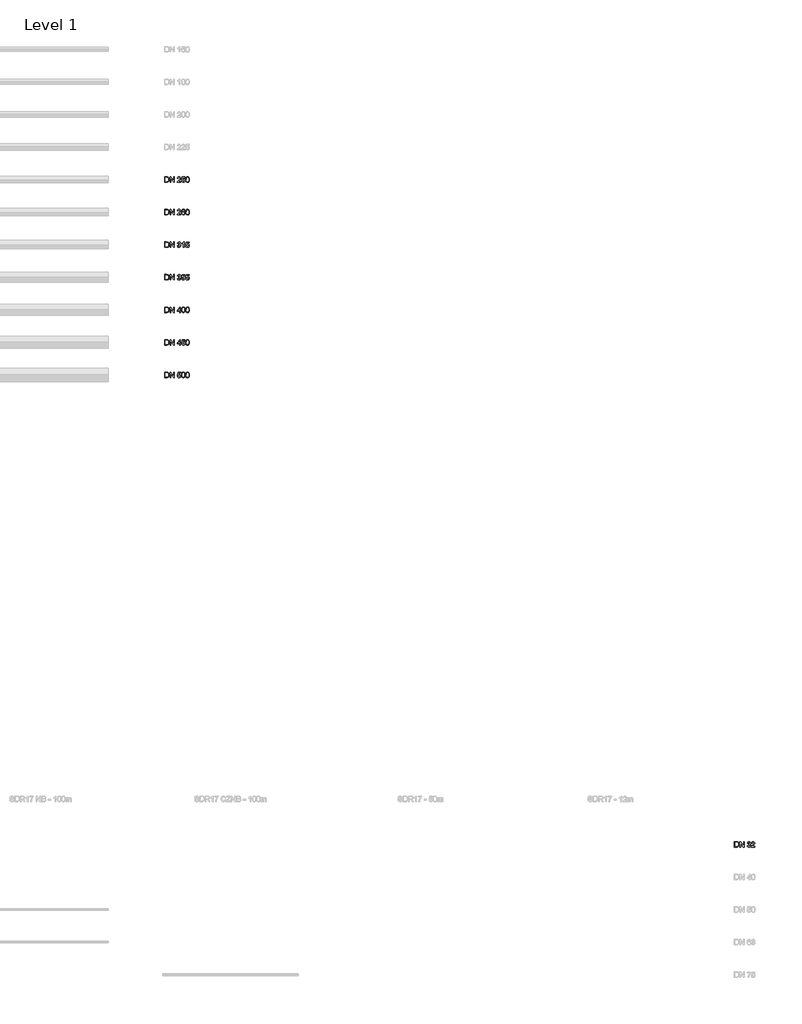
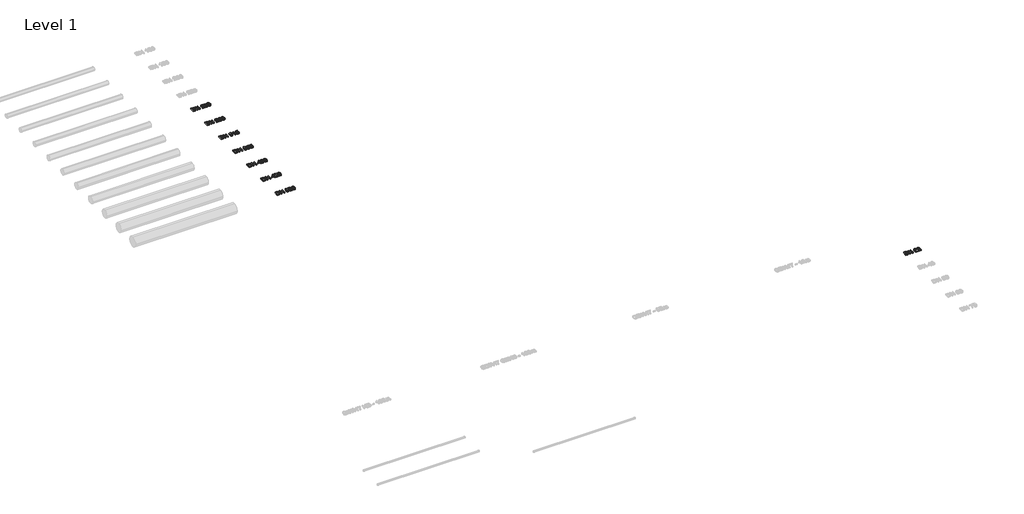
# One storey, part 22 of 26: 8 proxies.
"""IFC4 building model written with IfcOpenShell, lengths in millimetres."""

from ifc_helpers import new_model, si_unit, origin, origin_with_axes, place, context, project, spatial, polyline, outline, extrude, element, save

model = new_model("IFC4")

# Units and contexts
model_context = context("Model", 3, world=origin())
ifc_project = project(units=[si_unit("LENGTHUNIT", "METRE", prefix="MILLI")], contexts=[model_context])

# Site, building, storey
site = spatial("IfcSite", under=ifc_project)
building = spatial("IfcBuilding", under=site)
storey = spatial("IfcBuildingStorey", under=building, Name="Level 1", Elevation=0.0)

# Proxies
placement = place(None, origin())
element("IfcBuildingElementProxy", 1, Name="200mm Arial", ObjectType="200mm Arial", at=placement, inside=storey, context=model_context, shape_type="SweptSolid", body=[
    extrude(outline(polyline([(4539.3076926, -13913.949573), (4539.3076926, -13713.0369527), (4608.6166605, -13713.0369527), (4644.4728923, -13715.9309577), (4660.4880218, -13721.5105013), (4674.0015538, -13730.302881), (4687.8952305, -13745.606772), (4697.7912562, -13764.6385338), (4703.7141563, -13787.0302846), (4705.6884563, -13812.4141423), (4700.3419047, -13852.9547382), (4686.6076435, -13882.2136195), (4668.2625947, -13900.436041), (4644.2521631, -13910.5160077), (4611.9521239, -13913.949573), (4539.3076926, -13913.949573)]), holes=[polyline([(4564.4217702, -13888.8354954), (4608.8619152, -13888.8354954), (4641.1864798, -13885.2057264), (4659.8258342, -13874.9540815), (4668.5507689, -13864.0831685), (4675.1051998, -13850.0116822), (4679.207084, -13832.6783089), (4680.5743788, -13812.0217348), (4677.8949716, -13784.6513144), (4669.85675, -13764.4423301), (4657.9802929, -13750.5609162), (4643.7861793, -13742.1732067), (4608.1752021, -13738.1510302), (4564.4217702, -13738.1510302), (4564.4217702, -13888.8354954)])]), origin_with_axes(), (0.0, 0.0, 1.0), 50.0),
    extrude(outline(polyline([(4740.2203129, -13913.949573), (4740.2203129, -13713.0369527), (4767.100224, -13713.0369527), (4872.06922, -13872.2072292), (4872.06922, -13713.0369527), (4897.1832975, -13713.0369527), (4897.1832975, -13913.949573), (4870.3033864, -13913.949573), (4765.3343905, -13754.7302454), (4765.3343905, -13913.949573), (4740.2203129, -13913.949573)])), origin_with_axes(), (0.0, 0.0, 1.0), 50.0),
    extrude(outline(polyline([(5138.9062938, -13888.8354954), (5138.9062938, -13913.949573), (5007.0573868, -13913.949573), (5009.7551881, -13896.6345937), (5025.0100281, -13869.9754118), (5056.451676, -13840.8636832), (5099.8127005, -13799.0232377), (5107.9428926, -13784.6022634), (5110.6529566, -13770.5736967), (5108.0961767, -13757.9982638), (5100.4258371, -13747.5442838), (5088.6352192, -13740.4993436), (5073.7176043, -13738.1510302), (5058.0519627, -13740.4441613), (5045.8812, -13747.3235546), (5038.0269194, -13758.2496499), (5035.310724, -13772.6828868), (5010.1966465, -13769.5436271), (5016.2850935, -13745.2511527), (5029.4491375, -13727.5069778), (5049.0020656, -13716.6544589), (5074.2571645, -13713.0369527), (5099.6962045, -13717.0591291), (5119.2123444, -13729.1256586), (5131.6283617, -13747.1518763), (5135.7670341, -13769.0531178), (5131.3033993, -13792.8673456), (5116.4654921, -13817.4909138), (5080.486633, -13851.9001431), (5051.5956336, -13876.0577275), (5040.2648682, -13888.8354954), (5138.9062938, -13888.8354954)])), origin_with_axes(), (0.0, 0.0, 1.0), 50.0),
    extrude(outline(polyline([(5164.0203714, -13860.5821582), (5189.1344489, -13857.4428985), (5193.7452366, -13872.5199289), (5201.7895895, -13883.3172655), (5213.2307196, -13889.8103827), (5228.0318385, -13891.9747551), (5246.0335308, -13888.9642541), (5259.5225373, -13879.9327511), (5267.947035, -13865.9225785), (5270.7552009, -13847.9760685), (5268.1248446, -13831.0780222), (5260.2337758, -13818.1531014), (5247.0206809, -13809.9493329), (5228.424246, -13807.2147434), (5206.3758518, -13811.5802764), (5192.2737086, -13822.9110419), (5167.1596311, -13819.7717822), (5189.1344489, -13716.1762123), (5286.4514994, -13716.1762123), (5286.4514994, -13741.2902899), (5209.441535, -13741.2902899), (5198.6993808, -13796.619742), (5216.6397594, -13785.7304349), (5235.4385294, -13782.1006659), (5258.9032693, -13786.601089), (5278.3826209, -13800.1023582), (5291.4976141, -13820.6792244), (5295.8692784, -13846.4064386), (5291.9329411, -13871.5205162), (5280.123929, -13893.0048247), (5269.6883431, -13903.5415782), (5257.5114491, -13911.0678307), (5243.5932469, -13915.5835821), (5227.9337367, -13917.0888326), (5203.2672489, -13913.2199403), (5183.616219, -13901.6132634), (5170.1456066, -13883.6177025), (5164.0203714, -13860.5821582)])), origin_with_axes(), (0.0, 0.0, 1.0), 50.0),
    extrude(outline(polyline([(5317.8440963, -13815.1119436), (5319.6896376, -13782.9529258), (5325.2262617, -13757.3054194), (5334.3987861, -13737.7770168), (5347.1520286, -13723.9753106), (5363.5779597, -13715.7715422), (5383.7685498, -13713.0369527), (5399.2441191, -13714.6556334), (5413.1010076, -13719.5116758), (5424.6892904, -13727.4150073), (5433.3590428, -13738.1755557), (5445.1312666, -13767.9004209), (5449.6930034, -13815.1119436), (5447.8658561, -13847.0870203), (5442.3844144, -13872.6732131), (5433.2670723, -13892.2200098), (5420.5322239, -13906.0768983), (5404.0695046, -13914.335849), (5383.7685498, -13917.0888326), (5357.6734536, -13912.3063667), (5337.8568768, -13897.9589689), (5329.1012853, -13882.8298218), (5322.8472914, -13863.9789353), (5317.8440963, -13815.1119436)]), holes=[polyline([(5342.9581738, -13815.0628927), (5345.9012298, -13854.5672876), (5354.7303977, -13877.4311536), (5367.8760476, -13888.3388547), (5383.7685498, -13891.9747551), (5399.661052, -13888.326592), (5412.806702, -13877.3821026), (5421.6358699, -13854.5059739), (5424.5789258, -13815.0628927), (5421.7339717, -13776.4475459), (5413.1991094, -13753.4058703), (5400.0779849, -13741.9647402), (5383.4742442, -13738.1510302), (5367.7534203, -13741.5110191), (5355.1228051, -13751.5909857), (5345.9993317, -13776.0674012), (5342.9581738, -13815.0628927)])]), origin_with_axes(), (0.0, 0.0, 1.0), 50.0),
])
element("IfcBuildingElementProxy", 2, Name="200mm Arial", ObjectType="200mm Arial", at=placement, inside=storey, context=model_context, shape_type="SweptSolid", body=[
    extrude(outline(polyline([(4539.3076926, -16313.949573), (4539.3076926, -16113.0369527), (4608.6166605, -16113.0369527), (4644.4728923, -16115.9309577), (4660.4880218, -16121.5105013), (4674.0015538, -16130.302881), (4687.8952305, -16145.606772), (4697.7912562, -16164.6385338), (4703.7141563, -16187.0302846), (4705.6884563, -16212.4141423), (4700.3419047, -16252.9547382), (4686.6076435, -16282.2136195), (4668.2625947, -16300.436041), (4644.2521631, -16310.5160077), (4611.9521239, -16313.949573), (4539.3076926, -16313.949573)]), holes=[polyline([(4564.4217702, -16288.8354954), (4608.8619152, -16288.8354954), (4641.1864798, -16285.2057264), (4659.8258342, -16274.9540815), (4668.5507689, -16264.0831685), (4675.1051998, -16250.0116822), (4679.207084, -16232.6783089), (4680.5743788, -16212.0217348), (4677.8949716, -16184.6513144), (4669.85675, -16164.4423301), (4657.9802929, -16150.5609162), (4643.7861793, -16142.1732067), (4608.1752021, -16138.1510302), (4564.4217702, -16138.1510302), (4564.4217702, -16288.8354954)])]), origin_with_axes(), (0.0, 0.0, 1.0), 50.0),
    extrude(outline(polyline([(4740.2203129, -16313.949573), (4740.2203129, -16113.0369527), (4767.100224, -16113.0369527), (4872.06922, -16272.2072292), (4872.06922, -16113.0369527), (4897.1832975, -16113.0369527), (4897.1832975, -16313.949573), (4870.3033864, -16313.949573), (4765.3343905, -16154.7302454), (4765.3343905, -16313.949573), (4740.2203129, -16313.949573)])), origin_with_axes(), (0.0, 0.0, 1.0), 50.0),
    extrude(outline(polyline([(5010.1966465, -16260.5821582), (5035.310724, -16257.4428985), (5040.9331872, -16273.2250361), (5049.1676125, -16283.8813512), (5060.4186702, -16289.9514041), (5075.0910304, -16291.9747551), (5092.3079078, -16289.1911147), (5105.6007105, -16280.8401934), (5114.0987846, -16268.3812565), (5116.931476, -16253.2735692), (5114.1233101, -16238.9323028), (5105.6988124, -16227.3011004), (5092.9455699, -16219.5939726), (5077.1511696, -16217.02493), (5059.5418847, -16219.7717822), (5062.3377879, -16194.6577047), (5066.3599644, -16194.9520102), (5081.406338, -16193.1493885), (5094.8585563, -16187.7415231), (5104.3499118, -16178.5935242), (5107.5136969, -16165.5705016), (5105.2205658, -16154.7241141), (5098.3411725, -16145.925603), (5087.8442729, -16140.0946734), (5074.6986229, -16138.1510302), (5061.5284475, -16140.1130675), (5050.7617678, -16145.9991794), (5042.9013558, -16155.809366), (5038.4499837, -16169.5436271), (5013.3359061, -16166.4043674), (5020.7303343, -16143.8532011), (5033.8882469, -16127.0164685), (5051.8899392, -16116.5318316), (5073.8157062, -16113.0369527), (5089.6039751, -16114.7598667), (5104.1046571, -16119.9286087), (5116.3306021, -16128.0833263), (5125.29466, -16138.7641669), (5130.7944958, -16151.0698196), (5132.6277745, -16164.0989736), (5130.8864663, -16176.2390794), (5125.662542, -16187.2510138), (5117.0295779, -16196.6320047), (5105.0611503, -16203.87928), (5120.7819742, -16210.2313758), (5132.4315707, -16221.0471064), (5139.6420578, -16235.7378608), (5142.0455535, -16253.7150276), (5137.2385621, -16278.191443), (5122.8175879, -16298.645682), (5101.0512365, -16312.478045), (5074.2081136, -16317.0888326), (5049.9279019, -16313.1524953), (5030.1603761, -16301.3434833), (5016.4138522, -16283.2804773), (5010.1966465, -16260.5821582)])), origin_with_axes(), (0.0, 0.0, 1.0), 50.0),
    extrude(outline(polyline([(5258.1981621, -16313.949573), (5233.0840846, -16313.949573), (5233.0840846, -16157.3789958), (5209.2943822, -16174.3260931), (5182.8559295, -16187.0057592), (5182.8559295, -16163.2651077), (5219.6686545, -16139.769711), (5233.1392669, -16126.1948653), (5242.0113543, -16113.0369527), (5258.1981621, -16113.0369527), (5258.1981621, -16313.949573)])), origin_with_axes(), (0.0, 0.0, 1.0), 50.0),
    extrude(outline(polyline([(5317.8440963, -16260.5821582), (5342.9581738, -16257.4428985), (5347.5689615, -16272.5199289), (5355.6133145, -16283.3172655), (5367.0544445, -16289.8103827), (5381.8555634, -16291.9747551), (5399.8572557, -16288.9642541), (5413.3462622, -16279.9327511), (5421.7707599, -16265.9225785), (5424.5789258, -16247.9760685), (5421.9485696, -16231.0780222), (5414.0575008, -16218.1531014), (5400.8444058, -16209.9493329), (5382.2479709, -16207.2147434), (5360.1995767, -16211.5802764), (5346.0974335, -16222.9110419), (5320.983356, -16219.7717822), (5342.9581738, -16116.1762123), (5440.2752243, -16116.1762123), (5440.2752243, -16141.2902899), (5363.26526, -16141.2902899), (5352.5231057, -16196.619742), (5370.4634843, -16185.7304349), (5389.2622543, -16182.1006659), (5412.7269942, -16186.601089), (5432.2063459, -16200.1023582), (5445.321339, -16220.6792244), (5449.6930034, -16246.4064386), (5445.756666, -16271.5205162), (5433.947654, -16293.0048247), (5423.512068, -16303.5415782), (5411.335174, -16311.0678307), (5397.4169718, -16315.5835821), (5381.7574616, -16317.0888326), (5357.0909738, -16313.2199403), (5337.4399439, -16301.6132634), (5323.9693315, -16283.6177025), (5317.8440963, -16260.5821582)])), origin_with_axes(), (0.0, 0.0, 1.0), 50.0),
])
element("IfcBuildingElementProxy", 3, Name="200mm Arial", ObjectType="200mm Arial", at=placement, inside=storey, context=model_context, shape_type="SweptSolid", body=[
    extrude(outline(polyline([(4539.3076926, -18713.949573), (4539.3076926, -18513.0369527), (4608.6166605, -18513.0369527), (4644.4728923, -18515.9309577), (4660.4880218, -18521.5105013), (4674.0015538, -18530.302881), (4687.8952305, -18545.606772), (4697.7912562, -18564.6385338), (4703.7141563, -18587.0302846), (4705.6884563, -18612.4141423), (4700.3419047, -18652.9547382), (4686.6076435, -18682.2136195), (4668.2625947, -18700.436041), (4644.2521631, -18710.5160077), (4611.9521239, -18713.949573), (4539.3076926, -18713.949573)]), holes=[polyline([(4564.4217702, -18688.8354954), (4608.8619152, -18688.8354954), (4641.1864798, -18685.2057264), (4659.8258342, -18674.9540815), (4668.5507689, -18664.0831685), (4675.1051998, -18650.0116822), (4679.207084, -18632.6783089), (4680.5743788, -18612.0217348), (4677.8949716, -18584.6513144), (4669.85675, -18564.4423301), (4657.9802929, -18550.5609162), (4643.7861793, -18542.1732067), (4608.1752021, -18538.1510302), (4564.4217702, -18538.1510302), (4564.4217702, -18688.8354954)])]), origin_with_axes(), (0.0, 0.0, 1.0), 50.0),
    extrude(outline(polyline([(4740.2203129, -18713.949573), (4740.2203129, -18513.0369527), (4767.100224, -18513.0369527), (4872.06922, -18672.2072292), (4872.06922, -18513.0369527), (4897.1832975, -18513.0369527), (4897.1832975, -18713.949573), (4870.3033864, -18713.949573), (4765.3343905, -18554.7302454), (4765.3343905, -18713.949573), (4740.2203129, -18713.949573)])), origin_with_axes(), (0.0, 0.0, 1.0), 50.0),
    extrude(outline(polyline([(5091.8173985, -18713.949573), (5091.8173985, -18666.8606776), (5000.7788674, -18666.8606776), (5000.7788674, -18641.7466), (5098.0959178, -18516.1762123), (5116.931476, -18516.1762123), (5116.931476, -18641.7466), (5142.0455535, -18641.7466), (5142.0455535, -18666.8606776), (5116.931476, -18666.8606776), (5116.931476, -18713.949573), (5091.8173985, -18713.949573)]), holes=[polyline([(5091.8173985, -18641.7466), (5091.8173985, -18564.1480245), (5031.680955, -18641.7466), (5091.8173985, -18641.7466)])]), origin_with_axes(), (0.0, 0.0, 1.0), 50.0),
    extrude(outline(polyline([(5164.0203714, -18615.1119436), (5165.8659127, -18582.9529258), (5171.4025367, -18557.3054194), (5180.5750612, -18537.7770168), (5193.3283037, -18523.9753106), (5209.7542347, -18515.7715422), (5229.9448249, -18513.0369527), (5245.4203942, -18514.6556334), (5259.2772827, -18519.5116758), (5270.8655655, -18527.4150073), (5279.5353179, -18538.1755557), (5291.3075417, -18567.9004209), (5295.8692784, -18615.1119436), (5294.0421312, -18647.0870203), (5288.5606895, -18672.6732131), (5279.4433474, -18692.2200098), (5266.708499, -18706.0768983), (5250.2457797, -18714.335849), (5229.9448249, -18717.0888326), (5203.8497287, -18712.3063667), (5184.0331519, -18697.9589689), (5175.2775604, -18682.8298218), (5169.0235665, -18663.9789353), (5164.0203714, -18615.1119436)]), holes=[polyline([(5189.1344489, -18615.0628927), (5192.0775049, -18654.5672876), (5200.9066728, -18677.4311536), (5214.0523227, -18688.3388547), (5229.9448249, -18691.9747551), (5245.8373271, -18688.326592), (5258.9829771, -18677.3821026), (5267.8121449, -18654.5059739), (5270.7552009, -18615.0628927), (5267.9102468, -18576.4475459), (5259.3753845, -18553.4058703), (5246.25426, -18541.9647402), (5229.6505193, -18538.1510302), (5213.9296954, -18541.5110191), (5201.2990802, -18551.5909857), (5192.1756067, -18576.0674012), (5189.1344489, -18615.0628927)])]), origin_with_axes(), (0.0, 0.0, 1.0), 50.0),
    extrude(outline(polyline([(5317.8440963, -18615.1119436), (5319.6896376, -18582.9529258), (5325.2262617, -18557.3054194), (5334.3987861, -18537.7770168), (5347.1520286, -18523.9753106), (5363.5779597, -18515.7715422), (5383.7685498, -18513.0369527), (5399.2441191, -18514.6556334), (5413.1010076, -18519.5116758), (5424.6892904, -18527.4150073), (5433.3590428, -18538.1755557), (5445.1312666, -18567.9004209), (5449.6930034, -18615.1119436), (5447.8658561, -18647.0870203), (5442.3844144, -18672.6732131), (5433.2670723, -18692.2200098), (5420.5322239, -18706.0768983), (5404.0695046, -18714.335849), (5383.7685498, -18717.0888326), (5357.6734536, -18712.3063667), (5337.8568768, -18697.9589689), (5329.1012853, -18682.8298218), (5322.8472914, -18663.9789353), (5317.8440963, -18615.1119436)]), holes=[polyline([(5342.9581738, -18615.0628927), (5345.9012298, -18654.5672876), (5354.7303977, -18677.4311536), (5367.8760476, -18688.3388547), (5383.7685498, -18691.9747551), (5399.661052, -18688.326592), (5412.806702, -18677.3821026), (5421.6358699, -18654.5059739), (5424.5789258, -18615.0628927), (5421.7339717, -18576.4475459), (5413.1991094, -18553.4058703), (5400.0779849, -18541.9647402), (5383.4742442, -18538.1510302), (5367.7534203, -18541.5110191), (5355.1228051, -18551.5909857), (5345.9993317, -18576.0674012), (5342.9581738, -18615.0628927)])]), origin_with_axes(), (0.0, 0.0, 1.0), 50.0),
])
element("IfcBuildingElementProxy", 4, Name="200mm Arial", ObjectType="200mm Arial", at=placement, inside=storey, context=model_context, shape_type="SweptSolid", body=[
    extrude(outline(polyline([(4539.3076926, -15113.949573), (4539.3076926, -14913.0369527), (4608.6166605, -14913.0369527), (4644.4728923, -14915.9309577), (4660.4880218, -14921.5105013), (4674.0015538, -14930.302881), (4687.8952305, -14945.606772), (4697.7912562, -14964.6385338), (4703.7141563, -14987.0302846), (4705.6884563, -15012.4141423), (4700.3419047, -15052.9547382), (4686.6076435, -15082.2136195), (4668.2625947, -15100.436041), (4644.2521631, -15110.5160077), (4611.9521239, -15113.949573), (4539.3076926, -15113.949573)]), holes=[polyline([(4564.4217702, -15088.8354954), (4608.8619152, -15088.8354954), (4641.1864798, -15085.2057264), (4659.8258342, -15074.9540815), (4668.5507689, -15064.0831685), (4675.1051998, -15050.0116822), (4679.207084, -15032.6783089), (4680.5743788, -15012.0217348), (4677.8949716, -14984.6513144), (4669.85675, -14964.4423301), (4657.9802929, -14950.5609162), (4643.7861793, -14942.1732067), (4608.1752021, -14938.1510302), (4564.4217702, -14938.1510302), (4564.4217702, -15088.8354954)])]), origin_with_axes(), (0.0, 0.0, 1.0), 50.0),
    extrude(outline(polyline([(4740.2203129, -15113.949573), (4740.2203129, -14913.0369527), (4767.100224, -14913.0369527), (4872.06922, -15072.2072292), (4872.06922, -14913.0369527), (4897.1832975, -14913.0369527), (4897.1832975, -15113.949573), (4870.3033864, -15113.949573), (4765.3343905, -14954.7302454), (4765.3343905, -15113.949573), (4740.2203129, -15113.949573)])), origin_with_axes(), (0.0, 0.0, 1.0), 50.0),
    extrude(outline(polyline([(5138.9062938, -15088.8354954), (5138.9062938, -15113.949573), (5007.0573868, -15113.949573), (5009.7551881, -15096.6345937), (5025.0100281, -15069.9754118), (5056.451676, -15040.8636832), (5099.8127005, -14999.0232377), (5107.9428926, -14984.6022634), (5110.6529566, -14970.5736967), (5108.0961767, -14957.9982638), (5100.4258371, -14947.5442838), (5088.6352192, -14940.4993436), (5073.7176043, -14938.1510302), (5058.0519627, -14940.4441613), (5045.8812, -14947.3235546), (5038.0269194, -14958.2496499), (5035.310724, -14972.6828868), (5010.1966465, -14969.5436271), (5016.2850935, -14945.2511527), (5029.4491375, -14927.5069778), (5049.0020656, -14916.6544589), (5074.2571645, -14913.0369527), (5099.6962045, -14917.0591291), (5119.2123444, -14929.1256586), (5131.6283617, -14947.1518763), (5135.7670341, -14969.0531178), (5131.3033993, -14992.8673456), (5116.4654921, -15017.4909138), (5080.486633, -15051.9001431), (5051.5956336, -15076.0577275), (5040.2648682, -15088.8354954), (5138.9062938, -15088.8354954)])), origin_with_axes(), (0.0, 0.0, 1.0), 50.0),
    extrude(outline(polyline([(5200.6123672, -15003.2906688), (5187.1662802, -14996.6687929), (5177.7301071, -14987.6924722), (5172.1566948, -14976.5456478), (5170.2988908, -14963.4122605), (5174.3455927, -14943.7796247), (5186.4856985, -14927.5560287), (5205.3580449, -14916.6667217), (5229.6014684, -14913.0369527), (5253.9920447, -14916.7525608), (5273.1096457, -14927.8993853), (5285.4704807, -14944.3804986), (5289.5907591, -14964.0989736), (5287.7574804, -14976.8092965), (5282.2576446, -14987.7660486), (5273.0299379, -14996.687187), (5260.0130466, -15003.2906688), (5275.4702218, -15011.255314), (5286.7212795, -15022.9846183), (5293.5822787, -15037.9144959), (5295.8692784, -15055.4808612), (5291.3320672, -15079.4912927), (5277.7204333, -15099.332395), (5256.7021087, -15112.6497232), (5229.9448249, -15117.0888326), (5203.1875411, -15112.6313291), (5182.1692165, -15099.2588186), (5168.5575826, -15079.227644), (5164.0203714, -15054.7941481), (5166.3993416, -15036.5472012), (5173.5362523, -15021.5376158), (5185.0632215, -15010.2804267), (5200.6123672, -15003.2906688)]), holes=[polyline([(5189.1344489, -15053.9112313), (5193.3283037, -15072.8203659), (5199.1347078, -15080.9321639), (5208.1662108, -15086.97156), (5230.1410286, -15091.9747551), (5247.2352787, -15089.3443988), (5260.0620976, -15081.45333), (5268.0819251, -15069.5032966), (5270.7552009, -15054.6960463), (5267.9960859, -15039.6374099), (5259.7187411, -15027.4237277), (5246.5976166, -15019.3303238), (5229.3071628, -15016.6325225), (5212.452036, -15019.2935356), (5199.7539758, -15027.2765749), (5191.7893306, -15039.2572652), (5189.1344489, -15053.9112313)]), polyline([(5195.4129683, -14964.1480245), (5197.6386544, -14975.110908), (5204.3157126, -14983.8664995), (5215.2479392, -14989.6054586), (5230.2391305, -14991.518445), (5244.8808339, -14989.6177213), (5255.6475136, -14983.9155504), (5262.2693896, -14975.4542645), (5264.4766815, -14965.276196), (5262.1958132, -14954.7118513), (5255.353208, -14945.974654), (5244.4393755, -14940.1069361), (5229.9448249, -14938.1510302), (5215.3583038, -14940.0640166), (5204.4628654, -14945.8029757), (5197.6754426, -14954.2152106), (5195.4129683, -14964.1480245)])]), origin_with_axes(), (0.0, 0.0, 1.0), 50.0),
    extrude(outline(polyline([(5317.8440963, -15015.1119436), (5319.6896376, -14982.9529258), (5325.2262617, -14957.3054194), (5334.3987861, -14937.7770168), (5347.1520286, -14923.9753106), (5363.5779597, -14915.7715422), (5383.7685498, -14913.0369527), (5399.2441191, -14914.6556334), (5413.1010076, -14919.5116758), (5424.6892904, -14927.4150073), (5433.3590428, -14938.1755557), (5445.1312666, -14967.9004209), (5449.6930034, -15015.1119436), (5447.8658561, -15047.0870203), (5442.3844144, -15072.6732131), (5433.2670723, -15092.2200098), (5420.5322239, -15106.0768983), (5404.0695046, -15114.335849), (5383.7685498, -15117.0888326), (5357.6734536, -15112.3063667), (5337.8568768, -15097.9589689), (5329.1012853, -15082.8298218), (5322.8472914, -15063.9789353), (5317.8440963, -15015.1119436)]), holes=[polyline([(5342.9581738, -15015.0628927), (5345.9012298, -15054.5672876), (5354.7303977, -15077.4311536), (5367.8760476, -15088.3388547), (5383.7685498, -15091.9747551), (5399.661052, -15088.326592), (5412.806702, -15077.3821026), (5421.6358699, -15054.5059739), (5424.5789258, -15015.0628927), (5421.7339717, -14976.4475459), (5413.1991094, -14953.4058703), (5400.0779849, -14941.9647402), (5383.4742442, -14938.1510302), (5367.7534203, -14941.5110191), (5355.1228051, -14951.5909857), (5345.9993317, -14976.0674012), (5342.9581738, -15015.0628927)])]), origin_with_axes(), (0.0, 0.0, 1.0), 50.0),
])
element("IfcBuildingElementProxy", 5, Name="200mm Arial", ObjectType="200mm Arial", at=placement, inside=storey, context=model_context, shape_type="SweptSolid", body=[
    extrude(outline(polyline([(4539.3076926, -17513.949573), (4539.3076926, -17313.0369527), (4608.6166605, -17313.0369527), (4644.4728923, -17315.9309577), (4660.4880218, -17321.5105013), (4674.0015538, -17330.302881), (4687.8952305, -17345.606772), (4697.7912562, -17364.6385338), (4703.7141563, -17387.0302846), (4705.6884563, -17412.4141423), (4700.3419047, -17452.9547382), (4686.6076435, -17482.2136195), (4668.2625947, -17500.436041), (4644.2521631, -17510.5160077), (4611.9521239, -17513.949573), (4539.3076926, -17513.949573)]), holes=[polyline([(4564.4217702, -17488.8354954), (4608.8619152, -17488.8354954), (4641.1864798, -17485.2057264), (4659.8258342, -17474.9540815), (4668.5507689, -17464.0831685), (4675.1051998, -17450.0116822), (4679.207084, -17432.6783089), (4680.5743788, -17412.0217348), (4677.8949716, -17384.6513144), (4669.85675, -17364.4423301), (4657.9802929, -17350.5609162), (4643.7861793, -17342.1732067), (4608.1752021, -17338.1510302), (4564.4217702, -17338.1510302), (4564.4217702, -17488.8354954)])]), origin_with_axes(), (0.0, 0.0, 1.0), 50.0),
    extrude(outline(polyline([(4740.2203129, -17513.949573), (4740.2203129, -17313.0369527), (4767.100224, -17313.0369527), (4872.06922, -17472.2072292), (4872.06922, -17313.0369527), (4897.1832975, -17313.0369527), (4897.1832975, -17513.949573), (4870.3033864, -17513.949573), (4765.3343905, -17354.7302454), (4765.3343905, -17513.949573), (4740.2203129, -17513.949573)])), origin_with_axes(), (0.0, 0.0, 1.0), 50.0),
    extrude(outline(polyline([(5010.1966465, -17460.5821582), (5035.310724, -17457.4428985), (5040.9331872, -17473.2250361), (5049.1676125, -17483.8813512), (5060.4186702, -17489.9514041), (5075.0910304, -17491.9747551), (5092.3079078, -17489.1911147), (5105.6007105, -17480.8401934), (5114.0987846, -17468.3812565), (5116.931476, -17453.2735692), (5114.1233101, -17438.9323028), (5105.6988124, -17427.3011004), (5092.9455699, -17419.5939726), (5077.1511696, -17417.02493), (5059.5418847, -17419.7717822), (5062.3377879, -17394.6577047), (5066.3599644, -17394.9520102), (5081.406338, -17393.1493885), (5094.8585563, -17387.7415231), (5104.3499118, -17378.5935242), (5107.5136969, -17365.5705016), (5105.2205658, -17354.7241141), (5098.3411725, -17345.925603), (5087.8442729, -17340.0946734), (5074.6986229, -17338.1510302), (5061.5284475, -17340.1130675), (5050.7617678, -17345.9991794), (5042.9013558, -17355.809366), (5038.4499837, -17369.5436271), (5013.3359061, -17366.4043674), (5020.7303343, -17343.8532011), (5033.8882469, -17327.0164685), (5051.8899392, -17316.5318316), (5073.8157062, -17313.0369527), (5089.6039751, -17314.7598667), (5104.1046571, -17319.9286087), (5116.3306021, -17328.0833263), (5125.29466, -17338.7641669), (5130.7944958, -17351.0698196), (5132.6277745, -17364.0989736), (5130.8864663, -17376.2390794), (5125.662542, -17387.2510138), (5117.0295779, -17396.6320047), (5105.0611503, -17403.87928), (5120.7819742, -17410.2313758), (5132.4315707, -17421.0471064), (5139.6420578, -17435.7378608), (5142.0455535, -17453.7150276), (5137.2385621, -17478.191443), (5122.8175879, -17498.645682), (5101.0512365, -17512.478045), (5074.2081136, -17517.0888326), (5049.9279019, -17513.1524953), (5030.1603761, -17501.3434833), (5016.4138522, -17483.2804773), (5010.1966465, -17460.5821582)])), origin_with_axes(), (0.0, 0.0, 1.0), 50.0),
    extrude(outline(polyline([(5164.0203714, -17460.5821582), (5189.1344489, -17457.4428985), (5193.7452366, -17472.5199289), (5201.7895895, -17483.3172655), (5213.2307196, -17489.8103827), (5228.0318385, -17491.9747551), (5246.0335308, -17488.9642541), (5259.5225373, -17479.9327511), (5267.947035, -17465.9225785), (5270.7552009, -17447.9760685), (5268.1248446, -17431.0780222), (5260.2337758, -17418.1531014), (5247.0206809, -17409.9493329), (5228.424246, -17407.2147434), (5206.3758518, -17411.5802764), (5192.2737086, -17422.9110419), (5167.1596311, -17419.7717822), (5189.1344489, -17316.1762123), (5286.4514994, -17316.1762123), (5286.4514994, -17341.2902899), (5209.441535, -17341.2902899), (5198.6993808, -17396.619742), (5216.6397594, -17385.7304349), (5235.4385294, -17382.1006659), (5258.9032693, -17386.601089), (5278.3826209, -17400.1023582), (5291.4976141, -17420.6792244), (5295.8692784, -17446.4064386), (5291.9329411, -17471.5205162), (5280.123929, -17493.0048247), (5269.6883431, -17503.5415782), (5257.5114491, -17511.0678307), (5243.5932469, -17515.5835821), (5227.9337367, -17517.0888326), (5203.2672489, -17513.2199403), (5183.616219, -17501.6132634), (5170.1456066, -17483.6177025), (5164.0203714, -17460.5821582)])), origin_with_axes(), (0.0, 0.0, 1.0), 50.0),
    extrude(outline(polyline([(5317.8440963, -17460.5821582), (5342.9581738, -17457.4428985), (5347.5689615, -17472.5199289), (5355.6133145, -17483.3172655), (5367.0544445, -17489.8103827), (5381.8555634, -17491.9747551), (5399.8572557, -17488.9642541), (5413.3462622, -17479.9327511), (5421.7707599, -17465.9225785), (5424.5789258, -17447.9760685), (5421.9485696, -17431.0780222), (5414.0575008, -17418.1531014), (5400.8444058, -17409.9493329), (5382.2479709, -17407.2147434), (5360.1995767, -17411.5802764), (5346.0974335, -17422.9110419), (5320.983356, -17419.7717822), (5342.9581738, -17316.1762123), (5440.2752243, -17316.1762123), (5440.2752243, -17341.2902899), (5363.26526, -17341.2902899), (5352.5231057, -17396.619742), (5370.4634843, -17385.7304349), (5389.2622543, -17382.1006659), (5412.7269942, -17386.601089), (5432.2063459, -17400.1023582), (5445.321339, -17420.6792244), (5449.6930034, -17446.4064386), (5445.756666, -17471.5205162), (5433.947654, -17493.0048247), (5423.512068, -17503.5415782), (5411.335174, -17511.0678307), (5397.4169718, -17515.5835821), (5381.7574616, -17517.0888326), (5357.0909738, -17513.2199403), (5337.4399439, -17501.6132634), (5323.9693315, -17483.6177025), (5317.8440963, -17460.5821582)])), origin_with_axes(), (0.0, 0.0, 1.0), 50.0),
])
element("IfcBuildingElementProxy", 6, Name="200mm Arial", ObjectType="200mm Arial", at=placement, inside=storey, context=model_context, shape_type="SweptSolid", body=[
    extrude(outline(polyline([(4539.3076926, -21113.949573), (4539.3076926, -20913.0369527), (4608.6166605, -20913.0369527), (4644.4728923, -20915.9309577), (4660.4880218, -20921.5105013), (4674.0015538, -20930.302881), (4687.8952305, -20945.606772), (4697.7912562, -20964.6385338), (4703.7141563, -20987.0302846), (4705.6884563, -21012.4141423), (4700.3419047, -21052.9547382), (4686.6076435, -21082.2136195), (4668.2625947, -21100.436041), (4644.2521631, -21110.5160077), (4611.9521239, -21113.949573), (4539.3076926, -21113.949573)]), holes=[polyline([(4564.4217702, -21088.8354954), (4608.8619152, -21088.8354954), (4641.1864798, -21085.2057264), (4659.8258342, -21074.9540815), (4668.5507689, -21064.0831685), (4675.1051998, -21050.0116822), (4679.207084, -21032.6783089), (4680.5743788, -21012.0217348), (4677.8949716, -20984.6513144), (4669.85675, -20964.4423301), (4657.9802929, -20950.5609162), (4643.7861793, -20942.1732067), (4608.1752021, -20938.1510302), (4564.4217702, -20938.1510302), (4564.4217702, -21088.8354954)])]), origin_with_axes(), (0.0, 0.0, 1.0), 50.0),
    extrude(outline(polyline([(4740.2203129, -21113.949573), (4740.2203129, -20913.0369527), (4767.100224, -20913.0369527), (4872.06922, -21072.2072292), (4872.06922, -20913.0369527), (4897.1832975, -20913.0369527), (4897.1832975, -21113.949573), (4870.3033864, -21113.949573), (4765.3343905, -20954.7302454), (4765.3343905, -21113.949573), (4740.2203129, -21113.949573)])), origin_with_axes(), (0.0, 0.0, 1.0), 50.0),
    extrude(outline(polyline([(5010.1966465, -21060.5821582), (5035.310724, -21057.4428985), (5039.9215117, -21072.5199289), (5047.9658646, -21083.3172655), (5059.4069947, -21089.8103827), (5074.2081136, -21091.9747551), (5092.2098059, -21088.9642541), (5105.6988124, -21079.9327511), (5114.1233101, -21065.9225785), (5116.931476, -21047.9760685), (5114.3011197, -21031.0780222), (5106.4100509, -21018.1531014), (5093.1969559, -21009.9493329), (5074.6005211, -21007.2147434), (5052.5521268, -21011.5802764), (5038.4499837, -21022.9110419), (5013.3359061, -21019.7717822), (5035.310724, -20916.1762123), (5132.6277745, -20916.1762123), (5132.6277745, -20941.2902899), (5055.6178101, -20941.2902899), (5044.8756559, -20996.619742), (5062.8160345, -20985.7304349), (5081.6148045, -20982.1006659), (5105.0795444, -20986.601089), (5124.558896, -21000.1023582), (5137.6738892, -21020.6792244), (5142.0455535, -21046.4064386), (5138.1092162, -21071.5205162), (5126.3002041, -21093.0048247), (5115.8646182, -21103.5415782), (5103.6877242, -21111.0678307), (5089.769522, -21115.5835821), (5074.1100118, -21117.0888326), (5049.443524, -21113.2199403), (5029.7924941, -21101.6132634), (5016.3218817, -21083.6177025), (5010.1966465, -21060.5821582)])), origin_with_axes(), (0.0, 0.0, 1.0), 50.0),
    extrude(outline(polyline([(5164.0203714, -21015.1119436), (5165.8659127, -20982.9529258), (5171.4025367, -20957.3054194), (5180.5750612, -20937.7770168), (5193.3283037, -20923.9753106), (5209.7542347, -20915.7715422), (5229.9448249, -20913.0369527), (5245.4203942, -20914.6556334), (5259.2772827, -20919.5116758), (5270.8655655, -20927.4150073), (5279.5353179, -20938.1755557), (5291.3075417, -20967.9004209), (5295.8692784, -21015.1119436), (5294.0421312, -21047.0870203), (5288.5606895, -21072.6732131), (5279.4433474, -21092.2200098), (5266.708499, -21106.0768983), (5250.2457797, -21114.335849), (5229.9448249, -21117.0888326), (5203.8497287, -21112.3063667), (5184.0331519, -21097.9589689), (5175.2775604, -21082.8298218), (5169.0235665, -21063.9789353), (5164.0203714, -21015.1119436)]), holes=[polyline([(5189.1344489, -21015.0628927), (5192.0775049, -21054.5672876), (5200.9066728, -21077.4311536), (5214.0523227, -21088.3388547), (5229.9448249, -21091.9747551), (5245.8373271, -21088.326592), (5258.9829771, -21077.3821026), (5267.8121449, -21054.5059739), (5270.7552009, -21015.0628927), (5267.9102468, -20976.4475459), (5259.3753845, -20953.4058703), (5246.25426, -20941.9647402), (5229.6505193, -20938.1510302), (5213.9296954, -20941.5110191), (5201.2990802, -20951.5909857), (5192.1756067, -20976.0674012), (5189.1344489, -21015.0628927)])]), origin_with_axes(), (0.0, 0.0, 1.0), 50.0),
    extrude(outline(polyline([(5317.8440963, -21015.1119436), (5319.6896376, -20982.9529258), (5325.2262617, -20957.3054194), (5334.3987861, -20937.7770168), (5347.1520286, -20923.9753106), (5363.5779597, -20915.7715422), (5383.7685498, -20913.0369527), (5399.2441191, -20914.6556334), (5413.1010076, -20919.5116758), (5424.6892904, -20927.4150073), (5433.3590428, -20938.1755557), (5445.1312666, -20967.9004209), (5449.6930034, -21015.1119436), (5447.8658561, -21047.0870203), (5442.3844144, -21072.6732131), (5433.2670723, -21092.2200098), (5420.5322239, -21106.0768983), (5404.0695046, -21114.335849), (5383.7685498, -21117.0888326), (5357.6734536, -21112.3063667), (5337.8568768, -21097.9589689), (5329.1012853, -21082.8298218), (5322.8472914, -21063.9789353), (5317.8440963, -21015.1119436)]), holes=[polyline([(5342.9581738, -21015.0628927), (5345.9012298, -21054.5672876), (5354.7303977, -21077.4311536), (5367.8760476, -21088.3388547), (5383.7685498, -21091.9747551), (5399.661052, -21088.326592), (5412.806702, -21077.3821026), (5421.6358699, -21054.5059739), (5424.5789258, -21015.0628927), (5421.7339717, -20976.4475459), (5413.1991094, -20953.4058703), (5400.0779849, -20941.9647402), (5383.4742442, -20938.1510302), (5367.7534203, -20941.5110191), (5355.1228051, -20951.5909857), (5345.9993317, -20976.0674012), (5342.9581738, -21015.0628927)])]), origin_with_axes(), (0.0, 0.0, 1.0), 50.0),
])
element("IfcBuildingElementProxy", 7, Name="200mm Arial", ObjectType="200mm Arial", at=placement, inside=storey, context=model_context, shape_type="SweptSolid", body=[
    extrude(outline(polyline([(4539.3076926, -19913.949573), (4539.3076926, -19713.0369527), (4608.6166605, -19713.0369527), (4644.4728923, -19715.9309577), (4660.4880218, -19721.5105013), (4674.0015538, -19730.302881), (4687.8952305, -19745.606772), (4697.7912562, -19764.6385338), (4703.7141563, -19787.0302846), (4705.6884563, -19812.4141423), (4700.3419047, -19852.9547382), (4686.6076435, -19882.2136195), (4668.2625947, -19900.436041), (4644.2521631, -19910.5160077), (4611.9521239, -19913.949573), (4539.3076926, -19913.949573)]), holes=[polyline([(4564.4217702, -19888.8354954), (4608.8619152, -19888.8354954), (4641.1864798, -19885.2057264), (4659.8258342, -19874.9540815), (4668.5507689, -19864.0831685), (4675.1051998, -19850.0116822), (4679.207084, -19832.6783089), (4680.5743788, -19812.0217348), (4677.8949716, -19784.6513144), (4669.85675, -19764.4423301), (4657.9802929, -19750.5609162), (4643.7861793, -19742.1732067), (4608.1752021, -19738.1510302), (4564.4217702, -19738.1510302), (4564.4217702, -19888.8354954)])]), origin_with_axes(), (0.0, 0.0, 1.0), 50.0),
    extrude(outline(polyline([(4740.2203129, -19913.949573), (4740.2203129, -19713.0369527), (4767.100224, -19713.0369527), (4872.06922, -19872.2072292), (4872.06922, -19713.0369527), (4897.1832975, -19713.0369527), (4897.1832975, -19913.949573), (4870.3033864, -19913.949573), (4765.3343905, -19754.7302454), (4765.3343905, -19913.949573), (4740.2203129, -19913.949573)])), origin_with_axes(), (0.0, 0.0, 1.0), 50.0),
    extrude(outline(polyline([(5091.8173985, -19913.949573), (5091.8173985, -19866.8606776), (5000.7788674, -19866.8606776), (5000.7788674, -19841.7466), (5098.0959178, -19716.1762123), (5116.931476, -19716.1762123), (5116.931476, -19841.7466), (5142.0455535, -19841.7466), (5142.0455535, -19866.8606776), (5116.931476, -19866.8606776), (5116.931476, -19913.949573), (5091.8173985, -19913.949573)]), holes=[polyline([(5091.8173985, -19841.7466), (5091.8173985, -19764.1480245), (5031.680955, -19841.7466), (5091.8173985, -19841.7466)])]), origin_with_axes(), (0.0, 0.0, 1.0), 50.0),
    extrude(outline(polyline([(5164.0203714, -19860.5821582), (5189.1344489, -19857.4428985), (5193.7452366, -19872.5199289), (5201.7895895, -19883.3172655), (5213.2307196, -19889.8103827), (5228.0318385, -19891.9747551), (5246.0335308, -19888.9642541), (5259.5225373, -19879.9327511), (5267.947035, -19865.9225785), (5270.7552009, -19847.9760685), (5268.1248446, -19831.0780222), (5260.2337758, -19818.1531014), (5247.0206809, -19809.9493329), (5228.424246, -19807.2147434), (5206.3758518, -19811.5802764), (5192.2737086, -19822.9110419), (5167.1596311, -19819.7717822), (5189.1344489, -19716.1762123), (5286.4514994, -19716.1762123), (5286.4514994, -19741.2902899), (5209.441535, -19741.2902899), (5198.6993808, -19796.619742), (5216.6397594, -19785.7304349), (5235.4385294, -19782.1006659), (5258.9032693, -19786.601089), (5278.3826209, -19800.1023582), (5291.4976141, -19820.6792244), (5295.8692784, -19846.4064386), (5291.9329411, -19871.5205162), (5280.123929, -19893.0048247), (5269.6883431, -19903.5415782), (5257.5114491, -19911.0678307), (5243.5932469, -19915.5835821), (5227.9337367, -19917.0888326), (5203.2672489, -19913.2199403), (5183.616219, -19901.6132634), (5170.1456066, -19883.6177025), (5164.0203714, -19860.5821582)])), origin_with_axes(), (0.0, 0.0, 1.0), 50.0),
    extrude(outline(polyline([(5317.8440963, -19815.1119436), (5319.6896376, -19782.9529258), (5325.2262617, -19757.3054194), (5334.3987861, -19737.7770168), (5347.1520286, -19723.9753106), (5363.5779597, -19715.7715422), (5383.7685498, -19713.0369527), (5399.2441191, -19714.6556334), (5413.1010076, -19719.5116758), (5424.6892904, -19727.4150073), (5433.3590428, -19738.1755557), (5445.1312666, -19767.9004209), (5449.6930034, -19815.1119436), (5447.8658561, -19847.0870203), (5442.3844144, -19872.6732131), (5433.2670723, -19892.2200098), (5420.5322239, -19906.0768983), (5404.0695046, -19914.335849), (5383.7685498, -19917.0888326), (5357.6734536, -19912.3063667), (5337.8568768, -19897.9589689), (5329.1012853, -19882.8298218), (5322.8472914, -19863.9789353), (5317.8440963, -19815.1119436)]), holes=[polyline([(5342.9581738, -19815.0628927), (5345.9012298, -19854.5672876), (5354.7303977, -19877.4311536), (5367.8760476, -19888.3388547), (5383.7685498, -19891.9747551), (5399.661052, -19888.326592), (5412.806702, -19877.3821026), (5421.6358699, -19854.5059739), (5424.5789258, -19815.0628927), (5421.7339717, -19776.4475459), (5413.1991094, -19753.4058703), (5400.0779849, -19741.9647402), (5383.4742442, -19738.1510302), (5367.7534203, -19741.5110191), (5355.1228051, -19751.5909857), (5345.9993317, -19776.0674012), (5342.9581738, -19815.0628927)])]), origin_with_axes(), (0.0, 0.0, 1.0), 50.0),
])
element("IfcBuildingElementProxy", 8, Name="200mm Arial", ObjectType="200mm Arial", at=placement, inside=storey, context=model_context, shape_type="SweptSolid", body=[
    extrude(outline(polyline([(25539.3076926, -38413.949573), (25539.3076926, -38213.0369527), (25608.6166605, -38213.0369527), (25644.4728923, -38215.9309577), (25660.4880218, -38221.5105013), (25674.0015538, -38230.302881), (25687.8952305, -38245.606772), (25697.7912562, -38264.6385338), (25703.7141563, -38287.0302846), (25705.6884563, -38312.4141423), (25700.3419047, -38352.9547382), (25686.6076435, -38382.2136195), (25668.2625947, -38400.436041), (25644.2521631, -38410.5160077), (25611.9521239, -38413.949573), (25539.3076926, -38413.949573)]), holes=[polyline([(25564.4217702, -38388.8354954), (25608.8619152, -38388.8354954), (25641.1864798, -38385.2057264), (25659.8258342, -38374.9540815), (25668.5507689, -38364.0831685), (25675.1051998, -38350.0116822), (25679.207084, -38332.6783089), (25680.5743788, -38312.0217348), (25677.8949716, -38284.6513144), (25669.85675, -38264.4423301), (25657.9802929, -38250.5609162), (25643.7861793, -38242.1732067), (25608.1752021, -38238.1510302), (25564.4217702, -38238.1510302), (25564.4217702, -38388.8354954)])]), origin_with_axes(), (0.0, 0.0, 1.0), 50.0),
    extrude(outline(polyline([(25740.2203129, -38413.949573), (25740.2203129, -38213.0369527), (25767.100224, -38213.0369527), (25872.06922, -38372.2072292), (25872.06922, -38213.0369527), (25897.1832975, -38213.0369527), (25897.1832975, -38413.949573), (25870.3033864, -38413.949573), (25765.3343905, -38254.7302454), (25765.3343905, -38413.949573), (25740.2203129, -38413.949573)])), origin_with_axes(), (0.0, 0.0, 1.0), 50.0),
    extrude(outline(polyline([(26010.1966465, -38360.5821582), (26035.310724, -38357.4428985), (26040.9331872, -38373.2250361), (26049.1676125, -38383.8813512), (26060.4186702, -38389.9514041), (26075.0910304, -38391.9747551), (26092.3079078, -38389.1911147), (26105.6007105, -38380.8401934), (26114.0987846, -38368.3812565), (26116.931476, -38353.2735692), (26114.1233101, -38338.9323028), (26105.6988124, -38327.3011004), (26092.9455699, -38319.5939726), (26077.1511696, -38317.02493), (26059.5418847, -38319.7717822), (26062.3377879, -38294.6577047), (26066.3599644, -38294.9520102), (26081.406338, -38293.1493885), (26094.8585563, -38287.7415231), (26104.3499118, -38278.5935242), (26107.5136969, -38265.5705016), (26105.2205658, -38254.7241141), (26098.3411725, -38245.925603), (26087.8442729, -38240.0946734), (26074.6986229, -38238.1510302), (26061.5284475, -38240.1130675), (26050.7617678, -38245.9991794), (26042.9013558, -38255.809366), (26038.4499837, -38269.5436271), (26013.3359061, -38266.4043674), (26020.7303343, -38243.8532011), (26033.8882469, -38227.0164685), (26051.8899392, -38216.5318316), (26073.8157062, -38213.0369527), (26089.6039751, -38214.7598667), (26104.1046571, -38219.9286087), (26116.3306021, -38228.0833263), (26125.29466, -38238.7641669), (26130.7944958, -38251.0698196), (26132.6277745, -38264.0989736), (26130.8864663, -38276.2390794), (26125.662542, -38287.2510138), (26117.0295779, -38296.6320047), (26105.0611503, -38303.87928), (26120.7819742, -38310.2313758), (26132.4315707, -38321.0471064), (26139.6420578, -38335.7378608), (26142.0455535, -38353.7150276), (26137.2385621, -38378.191443), (26122.8175879, -38398.645682), (26101.0512365, -38412.478045), (26074.2081136, -38417.0888326), (26049.9279019, -38413.1524953), (26030.1603761, -38401.3434833), (26016.4138522, -38383.2804773), (26010.1966465, -38360.5821582)])), origin_with_axes(), (0.0, 0.0, 1.0), 50.0),
    extrude(outline(polyline([(26292.7300188, -38388.8354954), (26292.7300188, -38413.949573), (26160.8811117, -38413.949573), (26163.578913, -38396.6345937), (26178.833753, -38369.9754118), (26210.2754009, -38340.8636832), (26253.6364254, -38299.0232377), (26261.7666175, -38284.6022634), (26264.4766815, -38270.5736967), (26261.9199017, -38257.9982638), (26254.2495621, -38247.5442838), (26242.4589441, -38240.4993436), (26227.5413292, -38238.1510302), (26211.8756876, -38240.4441613), (26199.7049249, -38247.3235546), (26191.8506443, -38258.2496499), (26189.1344489, -38272.6828868), (26164.0203714, -38269.5436271), (26170.1088184, -38245.2511527), (26183.2728625, -38227.5069778), (26202.8257905, -38216.6544589), (26228.0808895, -38213.0369527), (26253.5199294, -38217.0591291), (26273.0360693, -38229.1256586), (26285.4520866, -38247.1518763), (26289.5907591, -38269.0531178), (26285.1271242, -38292.8673456), (26270.289217, -38317.4909138), (26234.3103579, -38351.9001431), (26205.4193586, -38376.0577275), (26194.0885931, -38388.8354954), (26292.7300188, -38388.8354954)])), origin_with_axes(), (0.0, 0.0, 1.0), 50.0),
])

save(model, "model.ifc")
